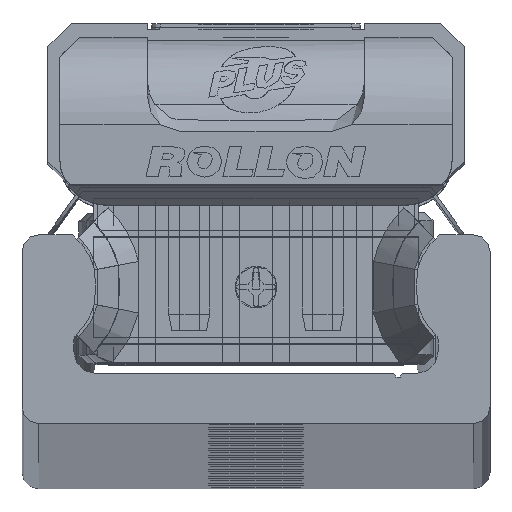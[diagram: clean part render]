
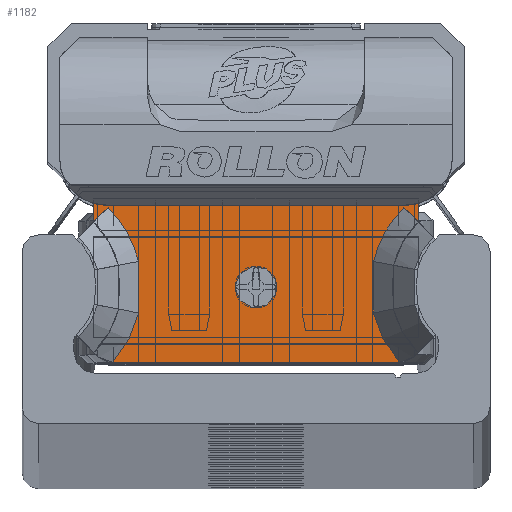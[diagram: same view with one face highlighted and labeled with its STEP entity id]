
A CAD part, top view. The second image highlights one B-rep face of the part: STEP entity #1182.
In plain terms, the highlighted planar face has unit normal (0, 0, 1) as drawn and (0, 0, -1) by its records, which use the part's own axes.
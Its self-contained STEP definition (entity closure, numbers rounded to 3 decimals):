
#1182 = ADVANCED_FACE( '', ( #2861, #2862 ), #2863, .F. );
#2861 = FACE_BOUND( '', #5236, .T. );
#2862 = FACE_OUTER_BOUND( '', #5237, .T. );
#2863 = PLANE( '', #5238 );
#5236 = EDGE_LOOP( '', ( #8516 ) );
#5237 = EDGE_LOOP( '', ( #8517, #8518, #8519, #8520, #8521, #8522, #8523, #8524, #8525, #8526, #8527, #8528, #8529, #8530 ) );
#5238 = AXIS2_PLACEMENT_3D( '', #8531, #8532, #8533 );
#8516 = ORIENTED_EDGE( '', *, *, #13750, .T. );
#8517 = ORIENTED_EDGE( '', *, *, #13751, .F. );
#8518 = ORIENTED_EDGE( '', *, *, #13249, .T. );
#8519 = ORIENTED_EDGE( '', *, *, #13752, .T. );
#8520 = ORIENTED_EDGE( '', *, *, #13753, .T. );
#8521 = ORIENTED_EDGE( '', *, *, #12962, .T. );
#8522 = ORIENTED_EDGE( '', *, *, #13628, .T. );
#8523 = ORIENTED_EDGE( '', *, *, #13205, .T. );
#8524 = ORIENTED_EDGE( '', *, *, #13754, .T. );
#8525 = ORIENTED_EDGE( '', *, *, #13755, .T. );
#8526 = ORIENTED_EDGE( '', *, *, #13756, .T. );
#8527 = ORIENTED_EDGE( '', *, *, #13757, .T. );
#8528 = ORIENTED_EDGE( '', *, *, #13406, .T. );
#8529 = ORIENTED_EDGE( '', *, *, #13758, .T. );
#8530 = ORIENTED_EDGE( '', *, *, #13759, .T. );
#8531 = CARTESIAN_POINT( '', ( 9.7, 4.89, -10.6 ) );
#8532 = DIRECTION( '', ( 0., 0., 1. ) );
#8533 = DIRECTION( '', ( 1., 0., 0. ) );
#12962 = EDGE_CURVE( '', #15293, #15294, #15295, .T. );
#13205 = EDGE_CURVE( '', #15717, #15718, #15719, .T. );
#13249 = EDGE_CURVE( '', #15793, #15791, #15794, .T. );
#13406 = EDGE_CURVE( '', #16060, #16058, #16061, .T. );
#13628 = EDGE_CURVE( '', #15294, #15717, #16429, .T. );
#13750 = EDGE_CURVE( '', #16629, #16629, #16630, .T. );
#13751 = EDGE_CURVE( '', #15793, #16328, #16631, .T. );
#13752 = EDGE_CURVE( '', #15791, #16632, #16633, .T. );
#13753 = EDGE_CURVE( '', #16632, #15293, #16634, .T. );
#13754 = EDGE_CURVE( '', #15718, #16635, #16636, .T. );
#13755 = EDGE_CURVE( '', #16635, #15843, #16637, .T. );
#13756 = EDGE_CURVE( '', #15843, #15626, #16638, .T. );
#13757 = EDGE_CURVE( '', #15626, #16060, #16639, .T. );
#13758 = EDGE_CURVE( '', #16058, #16640, #16641, .T. );
#13759 = EDGE_CURVE( '', #16640, #16328, #16642, .T. );
#15293 = VERTEX_POINT( '', #18732 );
#15294 = VERTEX_POINT( '', #18733 );
#15295 = LINE( '', #18734, #18735 );
#15626 = VERTEX_POINT( '', #19215 );
#15717 = VERTEX_POINT( '', #19338 );
#15718 = VERTEX_POINT( '', #19339 );
#15719 = B_SPLINE_CURVE_WITH_KNOTS( '', 2, ( #19340, #19341, #19342, #19343, #19344 ), .UNSPECIFIED., .F., .F., ( 3, 2, 3 ), ( 0., 0.5, 1. ), .UNSPECIFIED. );
#15791 = VERTEX_POINT( '', #19434 );
#15793 = VERTEX_POINT( '', #19437 );
#15794 = CIRCLE( '', #19438, 2.8 );
#15843 = VERTEX_POINT( '', #19509 );
#16058 = VERTEX_POINT( '', #19794 );
#16060 = VERTEX_POINT( '', #19797 );
#16061 = B_SPLINE_CURVE_WITH_KNOTS( '', 2, ( #19798, #19799, #19800 ), .UNSPECIFIED., .F., .F., ( 3, 3 ), ( 0., 1. ), .UNSPECIFIED. );
#16328 = VERTEX_POINT( '', #20255 );
#16429 = LINE( '', #20390, #20391 );
#16629 = VERTEX_POINT( '', #20640 );
#16630 = CIRCLE( '', #20641, 1.25 );
#16631 = LINE( '', #20642, #20643 );
#16632 = VERTEX_POINT( '', #20644 );
#16633 = LINE( '', #20645, #20646 );
#16634 = CIRCLE( '', #20647, 2.8 );
#16635 = VERTEX_POINT( '', #20648 );
#16636 = B_SPLINE_CURVE_WITH_KNOTS( '', 2, ( #20649, #20650, #20651 ), .UNSPECIFIED., .F., .F., ( 3, 3 ), ( 0., 1. ), .UNSPECIFIED. );
#16637 = B_SPLINE_CURVE_WITH_KNOTS( '', 2, ( #20652, #20653, #20654 ), .UNSPECIFIED., .F., .F., ( 3, 3 ), ( 0., 1. ), .UNSPECIFIED. );
#16638 = LINE( '', #20655, #20656 );
#16639 = B_SPLINE_CURVE_WITH_KNOTS( '', 2, ( #20657, #20658, #20659 ), .UNSPECIFIED., .F., .F., ( 3, 3 ), ( 0.1, 1. ), .UNSPECIFIED. );
#16640 = VERTEX_POINT( '', #20660 );
#16641 = B_SPLINE_CURVE_WITH_KNOTS( '', 2, ( #20661, #20662, #20663 ), .UNSPECIFIED., .F., .F., ( 3, 3 ), ( 0., 1. ), .UNSPECIFIED. );
#16642 = LINE( '', #20664, #20665 );
#18732 = CARTESIAN_POINT( '', ( 9.7, 4.612, -10.6 ) );
#18733 = CARTESIAN_POINT( '', ( 9.7, 3.497, -10.6 ) );
#18734 = CARTESIAN_POINT( '', ( 9.7, 4.89, -10.6 ) );
#18735 = VECTOR( '', #23415, 1000. );
#19215 = CARTESIAN_POINT( '', ( -8.59, -4.893, -10.6 ) );
#19338 = CARTESIAN_POINT( '', ( 8.853, 4.366, -10.6 ) );
#19339 = CARTESIAN_POINT( '', ( 7.031, 1.144, -10.6 ) );
#19340 = CARTESIAN_POINT( '', ( 8.853, 4.366, -10.6 ) );
#19341 = CARTESIAN_POINT( '', ( 8.182, 3.708, -10.6 ) );
#19342 = CARTESIAN_POINT( '', ( 7.715, 2.883, -10.6 ) );
#19343 = CARTESIAN_POINT( '', ( 7.249, 2.058, -10.6 ) );
#19344 = CARTESIAN_POINT( '', ( 7.031, 1.144, -10.6 ) );
#19434 = CARTESIAN_POINT( '', ( -8.95, 4.51, -10.6 ) );
#19437 = CARTESIAN_POINT( '', ( -9.7, 4.612, -10.6 ) );
#19438 = AXIS2_PLACEMENT_3D( '', #23776, #23777, #23778 );
#19509 = CARTESIAN_POINT( '', ( 8.59, -4.893, -10.6 ) );
#19794 = CARTESIAN_POINT( '', ( -7.031, 1.144, -10.6 ) );
#19797 = CARTESIAN_POINT( '', ( -7.031, -1.944, -10.6 ) );
#19798 = CARTESIAN_POINT( '', ( -7.031, -1.944, -10.6 ) );
#19799 = CARTESIAN_POINT( '', ( -6.929, -0.4, -10.6 ) );
#19800 = CARTESIAN_POINT( '', ( -7.031, 1.144, -10.6 ) );
#20255 = CARTESIAN_POINT( '', ( -9.7, 3.494, -10.6 ) );
#20390 = CARTESIAN_POINT( '', ( 9.7, 3.501, -10.6 ) );
#20391 = VECTOR( '', #24256, 1000. );
#20640 = CARTESIAN_POINT( '', ( 1.25, -0.39, -10.6 ) );
#20641 = AXIS2_PLACEMENT_3D( '', #24467, #24468, #24469 );
#20642 = CARTESIAN_POINT( '', ( -9.7, 4.89, -10.6 ) );
#20643 = VECTOR( '', #24470, 1000. );
#20644 = CARTESIAN_POINT( '', ( 8.95, 4.51, -10.6 ) );
#20645 = CARTESIAN_POINT( '', ( 9.7, 4.51, -10.6 ) );
#20646 = VECTOR( '', #24471, 1000. );
#20647 = AXIS2_PLACEMENT_3D( '', #24472, #24473, #24474 );
#20648 = CARTESIAN_POINT( '', ( 7.031, -1.944, -10.6 ) );
#20649 = CARTESIAN_POINT( '', ( 7.031, 1.144, -10.6 ) );
#20650 = CARTESIAN_POINT( '', ( 6.929, -0.4, -10.6 ) );
#20651 = CARTESIAN_POINT( '', ( 7.031, -1.944, -10.6 ) );
#20652 = CARTESIAN_POINT( '', ( 7.031, -1.944, -10.6 ) );
#20653 = CARTESIAN_POINT( '', ( 7.429, -3.615, -10.6 ) );
#20654 = CARTESIAN_POINT( '', ( 8.588, -4.89, -10.6 ) );
#20655 = CARTESIAN_POINT( '', ( 9.7, -4.89, -10.6 ) );
#20656 = VECTOR( '', #24475, 1000. );
#20657 = CARTESIAN_POINT( '', ( -8.587, -4.89, -10.6 ) );
#20658 = CARTESIAN_POINT( '', ( -7.432, -3.63, -10.6 ) );
#20659 = CARTESIAN_POINT( '', ( -7.031, -1.944, -10.6 ) );
#20660 = CARTESIAN_POINT( '', ( -8.853, 4.366, -10.6 ) );
#20661 = CARTESIAN_POINT( '', ( -7.031, 1.144, -10.6 ) );
#20662 = CARTESIAN_POINT( '', ( -7.477, 3.018, -10.6 ) );
#20663 = CARTESIAN_POINT( '', ( -8.853, 4.366, -10.6 ) );
#20664 = CARTESIAN_POINT( '', ( -8.853, 4.366, -10.6 ) );
#20665 = VECTOR( '', #24476, 1000. );
#23415 = DIRECTION( '', ( 0., -1., 0. ) );
#23776 = CARTESIAN_POINT( '', ( -8.95, 7.31, -10.6 ) );
#23777 = DIRECTION( '', ( 0., 0., 1. ) );
#23778 = DIRECTION( '', ( 1., 0., 0. ) );
#24256 = DIRECTION( '', ( -0.7, 0.714, 0. ) );
#24467 = CARTESIAN_POINT( '', ( 0., -0.39, -10.6 ) );
#24468 = DIRECTION( '', ( 0., 0., 1. ) );
#24469 = DIRECTION( '', ( 1., 0., 0. ) );
#24470 = DIRECTION( '', ( 0., -1., 0. ) );
#24471 = DIRECTION( '', ( 1., 0., 0. ) );
#24472 = CARTESIAN_POINT( '', ( 8.95, 7.31, -10.6 ) );
#24473 = DIRECTION( '', ( 0., 0., 1. ) );
#24474 = DIRECTION( '', ( 1., 0., 0. ) );
#24475 = DIRECTION( '', ( -1., 0., 0. ) );
#24476 = DIRECTION( '', ( -0.7, -0.714, 0. ) );
